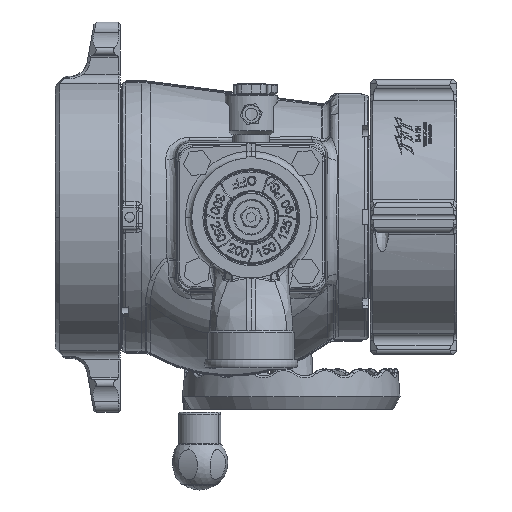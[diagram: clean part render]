
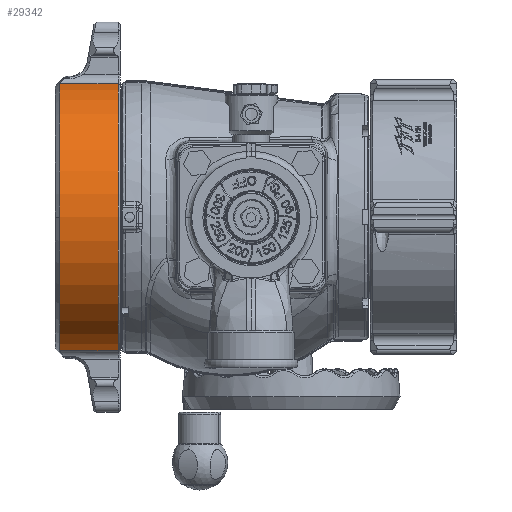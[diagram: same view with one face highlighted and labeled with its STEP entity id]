
A CAD part, front view. The second image highlights one B-rep face of the part: STEP entity #29342.
In plain terms, the highlighted cylindrical face has radius 98.425 mm (diameter 196.85 mm), a partial arc.
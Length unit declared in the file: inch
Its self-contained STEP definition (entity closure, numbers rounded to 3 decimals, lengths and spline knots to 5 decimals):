
#22866 = DIRECTION ( 'NONE',  ( 0., 0., -1. ) ) ;
#22868 = DIRECTION ( 'NONE',  ( 1., 0., 0. ) ) ;
#22870 = CARTESIAN_POINT ( 'NONE',  ( -6.01215, -0.44219, 0. ) ) ;
#25025 = ORIENTED_EDGE ( 'NONE', *, *, #31787, .T. ) ;
#25027 = ORIENTED_EDGE ( 'NONE', *, *, #31794, .T. ) ;
#25030 = ORIENTED_EDGE ( 'NONE', *, *, #31796, .F. ) ;
#25032 = ORIENTED_EDGE ( 'NONE', *, *, #123429, .F. ) ;
#25034 = ORIENTED_EDGE ( 'NONE', *, *, #31799, .F. ) ;
#29342 = ADVANCED_FACE ( 'NONE', ( #111822 ), #111828, .T. ) ;
#31787 = EDGE_CURVE ( 'NONE', #138882, #139200, #84459, .T. ) ;
#31794 = EDGE_CURVE ( 'NONE', #139200, #138939, #84473, .T. ) ;
#31796 = EDGE_CURVE ( 'NONE', #136208, #138939, #84476, .T. ) ;
#31799 = EDGE_CURVE ( 'NONE', #138882, #137736, #84462, .T. ) ;
#84459 = LINE ( 'NONE', #92403, #84466 ) ;
#84462 = CIRCLE ( 'NONE', #89870, 3.875 ) ;
#84466 = VECTOR ( 'NONE', #92419, 39.37008 ) ;
#84473 = CIRCLE ( 'NONE', #89868, 3.875 ) ;
#84476 = LINE ( 'NONE', #92590, #84482 ) ;
#84482 = VECTOR ( 'NONE', #92521, 39.37008 ) ;
#89868 = AXIS2_PLACEMENT_3D ( 'NONE', #92602, #92605, #92607 ) ;
#89870 = AXIS2_PLACEMENT_3D ( 'NONE', #92620, #92622, #92625 ) ;
#92403 = CARTESIAN_POINT ( 'NONE',  ( -6.01215, -1.13098, -3.81329 ) ) ;
#92419 = DIRECTION ( 'NONE',  ( 1., 0., 0. ) ) ;
#92521 = DIRECTION ( 'NONE',  ( 1., 0., 0. ) ) ;
#92536 = AXIS2_PLACEMENT_3D ( 'NONE', #129373, #129374, #129376 ) ;
#92590 = CARTESIAN_POINT ( 'NONE',  ( -6.01215, -1.13098, 3.81329 ) ) ;
#92602 = CARTESIAN_POINT ( 'NONE',  ( -4.21165, -0.44219, 0. ) ) ;
#92605 = DIRECTION ( 'NONE',  ( -1., 0., 0. ) ) ;
#92607 = DIRECTION ( 'NONE',  ( 0., 0., -1. ) ) ;
#92620 = CARTESIAN_POINT ( 'NONE',  ( -5.88715, -0.44219, 0. ) ) ;
#92622 = DIRECTION ( 'NONE',  ( -1., 0., 0. ) ) ;
#92625 = DIRECTION ( 'NONE',  ( 0., 1., 0. ) ) ;
#111822 = FACE_OUTER_BOUND ( 'NONE', #132231, .T. ) ;
#111828 = CYLINDRICAL_SURFACE ( 'NONE', #126250, 3.875 ) ;
#123429 = EDGE_CURVE ( 'NONE', #137736, #136208, #160964, .T. ) ;
#126250 = AXIS2_PLACEMENT_3D ( 'NONE', #22870, #22868, #22866 ) ;
#129373 = CARTESIAN_POINT ( 'NONE',  ( -5.88715, -0.44219, 0. ) ) ;
#129374 = DIRECTION ( 'NONE',  ( -1., 0., 0. ) ) ;
#129376 = DIRECTION ( 'NONE',  ( 0., 1., 0. ) ) ;
#132231 = EDGE_LOOP ( 'NONE', ( #25025, #25027, #25030, #25032, #25034 ) ) ;
#136208 = VERTEX_POINT ( 'NONE', #166911 ) ;
#137736 = VERTEX_POINT ( 'NONE', #167582 ) ;
#138882 = VERTEX_POINT ( 'NONE', #167778 ) ;
#138939 = VERTEX_POINT ( 'NONE', #167787 ) ;
#139200 = VERTEX_POINT ( 'NONE', #167821 ) ;
#160964 = CIRCLE ( 'NONE', #92536, 3.875 ) ;
#166911 = CARTESIAN_POINT ( 'NONE',  ( -5.88715, -1.13098, 3.81329 ) ) ;
#167582 = CARTESIAN_POINT ( 'NONE',  ( -5.88715, -4.31719, 0. ) ) ;
#167778 = CARTESIAN_POINT ( 'NONE',  ( -5.88715, -1.13098, -3.81329 ) ) ;
#167787 = CARTESIAN_POINT ( 'NONE',  ( -4.21165, -1.13098, 3.81329 ) ) ;
#167821 = CARTESIAN_POINT ( 'NONE',  ( -4.21165, -1.13098, -3.81329 ) ) ;
